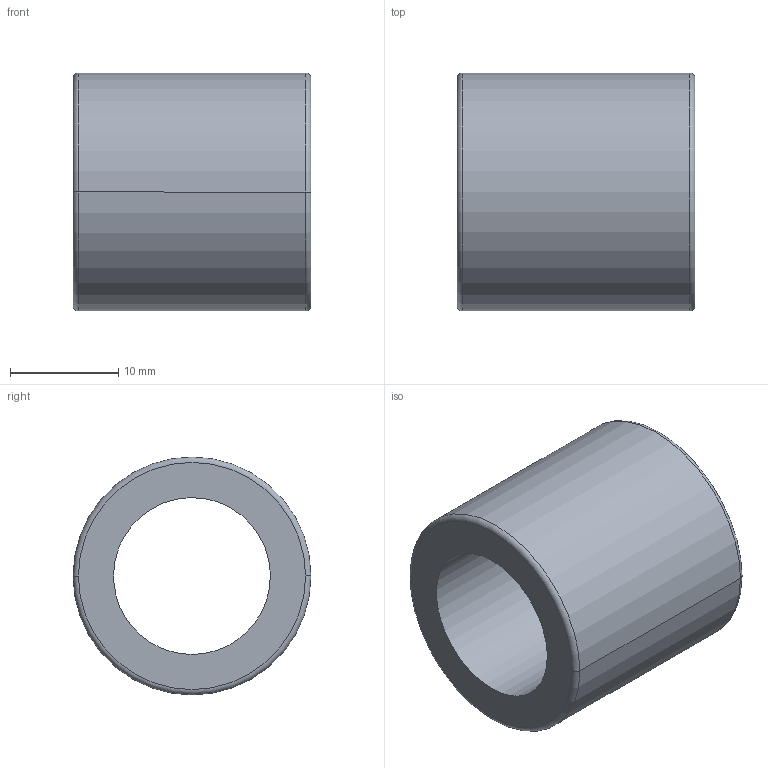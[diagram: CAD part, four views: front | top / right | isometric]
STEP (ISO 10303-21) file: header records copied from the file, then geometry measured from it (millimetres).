
FILE_DESCRIPTION(('CATIA V5 STEP Exchange'),'2;1');
FILE_NAME('C:\Users\aa\Documents\이댈\TM\STM\STM14.stp','2020-03-24T09:41:25+00:00',('none'),('none'),'CATIA Version 5 Release 20 SP 7 (IN-10)','CATIA V5 STEP AP203','none');
FILE_SCHEMA(('CONFIG_CONTROL_DESIGN'));
Length unit declared in the file: millimetre
Products named in the file (1): STM14
Bounding box: 22 x 22 x 22 mm (x, y, z)
Volume: 4722.7 mm3; surface area: 2922.8 mm2
Topology: 1 solids, 1 shells, 10 faces, 20 edges, 12 vertices
Faces by surface type: cylinder 4, torus 4, plane 2
Entity records: 322 total; most frequent: CARTESIAN_POINT 71, ORIENTED_EDGE 40, DIRECTION 38, AXIS2_PLACEMENT_3D 25, EDGE_CURVE 20, CIRCLE 14, EDGE_LOOP 12, VERTEX_POINT 12
